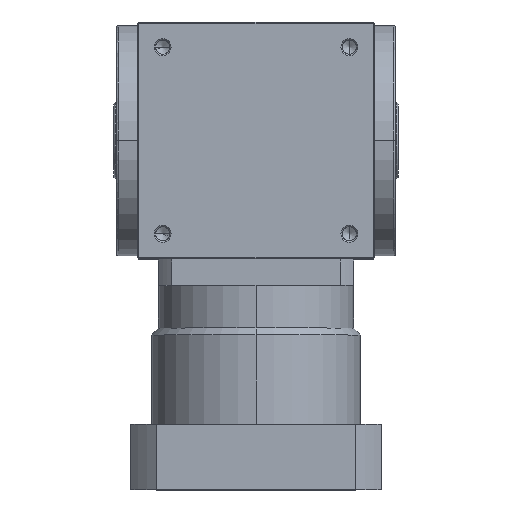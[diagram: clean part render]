
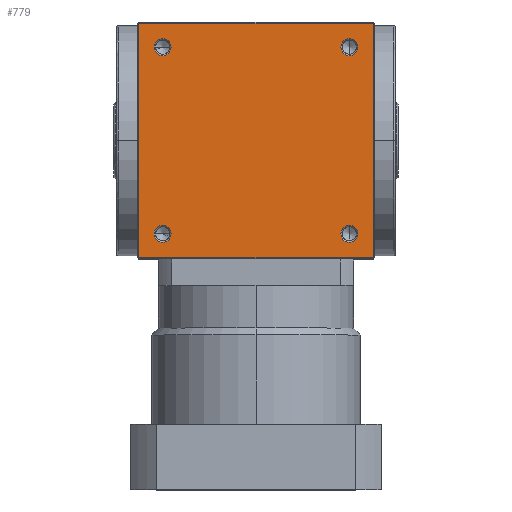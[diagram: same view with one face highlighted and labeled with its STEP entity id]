
A CAD part, top view. The second image highlights one B-rep face of the part: STEP entity #779.
In plain terms, the highlighted planar face has unit normal (0, 0, 1).
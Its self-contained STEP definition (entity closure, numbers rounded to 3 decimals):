
#83 = CARTESIAN_POINT ( 'NONE',  ( -67., -67., 85. ) ) ;
#196 = CARTESIAN_POINT ( 'NONE',  ( -84., 0., 85. ) ) ;
#214 = CIRCLE ( 'NONE', #3852, 6.1 ) ;
#532 = CIRCLE ( 'NONE', #10092, 6.1 ) ;
#778 = CARTESIAN_POINT ( 'NONE',  ( 84., 84., 85. ) ) ;
#779 = ADVANCED_FACE ( 'NONE', ( #6360, #4048, #10969, #11233, #1503 ), #4322, .F. ) ;
#925 = ORIENTED_EDGE ( 'NONE', *, *, #5897, .F. ) ;
#954 = DIRECTION ( 'NONE',  ( 0., 0., 1. ) ) ;
#1008 = DIRECTION ( 'NONE',  ( 1., 0., 0. ) ) ;
#1118 = DIRECTION ( 'NONE',  ( 0., -1., 0. ) ) ;
#1180 = CARTESIAN_POINT ( 'NONE',  ( 0., -84., 85. ) ) ;
#1288 = CARTESIAN_POINT ( 'NONE',  ( 73.1, 67., 85. ) ) ;
#1396 = CIRCLE ( 'NONE', #2302, 6.1 ) ;
#1441 = ORIENTED_EDGE ( 'NONE', *, *, #8763, .F. ) ;
#1481 = VERTEX_POINT ( 'NONE', #1659 ) ;
#1503 = FACE_BOUND ( 'NONE', #8322, .T. ) ;
#1639 = VECTOR ( 'NONE', #3869, 1000. ) ;
#1650 = ORIENTED_EDGE ( 'NONE', *, *, #7616, .T. ) ;
#1659 = CARTESIAN_POINT ( 'NONE',  ( -73.1, -67., 85. ) ) ;
#1677 = ORIENTED_EDGE ( 'NONE', *, *, #7583, .T. ) ;
#1731 = DIRECTION ( 'NONE',  ( 0., 0., 1. ) ) ;
#1874 = EDGE_LOOP ( 'NONE', ( #5848, #1441 ) ) ;
#2044 = CARTESIAN_POINT ( 'NONE',  ( 73.1, -67., 85. ) ) ;
#2104 = AXIS2_PLACEMENT_3D ( 'NONE', #3788, #10205, #4798 ) ;
#2126 = DIRECTION ( 'NONE',  ( 1., 0., 0. ) ) ;
#2302 = AXIS2_PLACEMENT_3D ( 'NONE', #83, #6764, #1008 ) ;
#2531 = VERTEX_POINT ( 'NONE', #778 ) ;
#2565 = VERTEX_POINT ( 'NONE', #6012 ) ;
#2863 = AXIS2_PLACEMENT_3D ( 'NONE', #4228, #4211, #4192 ) ;
#2918 = DIRECTION ( 'NONE',  ( 0., 0., 1. ) ) ;
#3162 = LINE ( 'NONE', #1180, #9904 ) ;
#3464 = CARTESIAN_POINT ( 'NONE',  ( -60.9, -67., 85. ) ) ;
#3602 = CIRCLE ( 'NONE', #7288, 6.1 ) ;
#3788 = CARTESIAN_POINT ( 'NONE',  ( 67., -67., 85. ) ) ;
#3852 = AXIS2_PLACEMENT_3D ( 'NONE', #4524, #10806, #5543 ) ;
#3855 = ORIENTED_EDGE ( 'NONE', *, *, #8688, .F. ) ;
#3869 = DIRECTION ( 'NONE',  ( 0., 1., 0. ) ) ;
#4048 = FACE_BOUND ( 'NONE', #7165, .T. ) ;
#4192 = DIRECTION ( 'NONE',  ( -1., 0., 0. ) ) ;
#4211 = DIRECTION ( 'NONE',  ( 0., 0., -1. ) ) ;
#4228 = CARTESIAN_POINT ( 'NONE',  ( 0., 0., 85. ) ) ;
#4322 = PLANE ( 'NONE',  #2863 ) ;
#4420 = AXIS2_PLACEMENT_3D ( 'NONE', #8584, #2918, #9413 ) ;
#4443 = ORIENTED_EDGE ( 'NONE', *, *, #8809, .F. ) ;
#4524 = CARTESIAN_POINT ( 'NONE',  ( -67., 67., 85. ) ) ;
#4525 = VERTEX_POINT ( 'NONE', #1288 ) ;
#4798 = DIRECTION ( 'NONE',  ( 1., 0., 0. ) ) ;
#4844 = CARTESIAN_POINT ( 'NONE',  ( -67., 67., 85. ) ) ;
#5543 = DIRECTION ( 'NONE',  ( 1., 0., 0. ) ) ;
#5683 = CARTESIAN_POINT ( 'NONE',  ( -67., -67., 85. ) ) ;
#5848 = ORIENTED_EDGE ( 'NONE', *, *, #5919, .F. ) ;
#5867 = DIRECTION ( 'NONE',  ( 1., 0., 0. ) ) ;
#5897 = EDGE_CURVE ( 'NONE', #6944, #2565, #8675, .T. ) ;
#5904 = EDGE_CURVE ( 'NONE', #8257, #1481, #1396, .T. ) ;
#5919 = EDGE_CURVE ( 'NONE', #4525, #8232, #10867, .T. ) ;
#5922 = EDGE_CURVE ( 'NONE', #8067, #8880, #3602, .T. ) ;
#6012 = CARTESIAN_POINT ( 'NONE',  ( 60.9, -67., 85. ) ) ;
#6360 = FACE_OUTER_BOUND ( 'NONE', #9981, .T. ) ;
#6624 = DIRECTION ( 'NONE',  ( 1., 0., 0. ) ) ;
#6710 = CARTESIAN_POINT ( 'NONE',  ( 67., -67., 85. ) ) ;
#6764 = DIRECTION ( 'NONE',  ( 0., 0., 1. ) ) ;
#6803 = VECTOR ( 'NONE', #11113, 1000. ) ;
#6823 = ORIENTED_EDGE ( 'NONE', *, *, #8835, .F. ) ;
#6944 = VERTEX_POINT ( 'NONE', #2044 ) ;
#6958 = CIRCLE ( 'NONE', #9901, 6.1 ) ;
#7165 = EDGE_LOOP ( 'NONE', ( #10912, #3855 ) ) ;
#7288 = AXIS2_PLACEMENT_3D ( 'NONE', #4844, #11079, #5867 ) ;
#7425 = VERTEX_POINT ( 'NONE', #10110 ) ;
#7493 = CARTESIAN_POINT ( 'NONE',  ( 67., 67., 85. ) ) ;
#7570 = EDGE_CURVE ( 'NONE', #10857, #7425, #3162, .T. ) ;
#7583 = EDGE_CURVE ( 'NONE', #7425, #2531, #8922, .T. ) ;
#7584 = EDGE_CURVE ( 'NONE', #2531, #10321, #9172, .T. ) ;
#7616 = EDGE_CURVE ( 'NONE', #10321, #10857, #8089, .T. ) ;
#7622 = DIRECTION ( 'NONE',  ( 1., 0., 0. ) ) ;
#7712 = CARTESIAN_POINT ( 'NONE',  ( 84., 0., 85. ) ) ;
#7767 = CARTESIAN_POINT ( 'NONE',  ( -60.9, 67., 85. ) ) ;
#8067 = VERTEX_POINT ( 'NONE', #7767 ) ;
#8089 = LINE ( 'NONE', #196, #10041 ) ;
#8232 = VERTEX_POINT ( 'NONE', #9830 ) ;
#8257 = VERTEX_POINT ( 'NONE', #3464 ) ;
#8322 = EDGE_LOOP ( 'NONE', ( #925, #6823 ) ) ;
#8421 = DIRECTION ( 'NONE',  ( 1., 0., 0. ) ) ;
#8584 = CARTESIAN_POINT ( 'NONE',  ( 67., 67., 85. ) ) ;
#8675 = CIRCLE ( 'NONE', #2104, 6.1 ) ;
#8688 = EDGE_CURVE ( 'NONE', #8880, #8067, #214, .T. ) ;
#8718 = CARTESIAN_POINT ( 'NONE',  ( -84., 84., 85. ) ) ;
#8763 = EDGE_CURVE ( 'NONE', #8232, #4525, #532, .T. ) ;
#8809 = EDGE_CURVE ( 'NONE', #1481, #8257, #10319, .T. ) ;
#8835 = EDGE_CURVE ( 'NONE', #2565, #6944, #6958, .T. ) ;
#8880 = VERTEX_POINT ( 'NONE', #9436 ) ;
#8922 = LINE ( 'NONE', #7712, #1639 ) ;
#9172 = LINE ( 'NONE', #10279, #6803 ) ;
#9413 = DIRECTION ( 'NONE',  ( 1., 0., 0. ) ) ;
#9436 = CARTESIAN_POINT ( 'NONE',  ( -73.1, 67., 85. ) ) ;
#9457 = EDGE_LOOP ( 'NONE', ( #10215, #4443 ) ) ;
#9547 = AXIS2_PLACEMENT_3D ( 'NONE', #5683, #11739, #6624 ) ;
#9748 = ORIENTED_EDGE ( 'NONE', *, *, #7570, .T. ) ;
#9830 = CARTESIAN_POINT ( 'NONE',  ( 60.9, 67., 85. ) ) ;
#9901 = AXIS2_PLACEMENT_3D ( 'NONE', #6710, #954, #7622 ) ;
#9904 = VECTOR ( 'NONE', #2126, 1000. ) ;
#9940 = CARTESIAN_POINT ( 'NONE',  ( -84., -84., 85. ) ) ;
#9981 = EDGE_LOOP ( 'NONE', ( #9748, #1677, #11219, #1650 ) ) ;
#10041 = VECTOR ( 'NONE', #1118, 1000. ) ;
#10092 = AXIS2_PLACEMENT_3D ( 'NONE', #7493, #1731, #8421 ) ;
#10110 = CARTESIAN_POINT ( 'NONE',  ( 84., -84., 85. ) ) ;
#10205 = DIRECTION ( 'NONE',  ( 0., 0., 1. ) ) ;
#10215 = ORIENTED_EDGE ( 'NONE', *, *, #5904, .F. ) ;
#10279 = CARTESIAN_POINT ( 'NONE',  ( 0., 84., 85. ) ) ;
#10319 = CIRCLE ( 'NONE', #9547, 6.1 ) ;
#10321 = VERTEX_POINT ( 'NONE', #8718 ) ;
#10806 = DIRECTION ( 'NONE',  ( 0., 0., 1. ) ) ;
#10857 = VERTEX_POINT ( 'NONE', #9940 ) ;
#10867 = CIRCLE ( 'NONE', #4420, 6.1 ) ;
#10912 = ORIENTED_EDGE ( 'NONE', *, *, #5922, .F. ) ;
#10969 = FACE_BOUND ( 'NONE', #1874, .T. ) ;
#11079 = DIRECTION ( 'NONE',  ( 0., 0., 1. ) ) ;
#11113 = DIRECTION ( 'NONE',  ( -1., 0., 0. ) ) ;
#11219 = ORIENTED_EDGE ( 'NONE', *, *, #7584, .T. ) ;
#11233 = FACE_BOUND ( 'NONE', #9457, .T. ) ;
#11739 = DIRECTION ( 'NONE',  ( 0., 0., 1. ) ) ;
